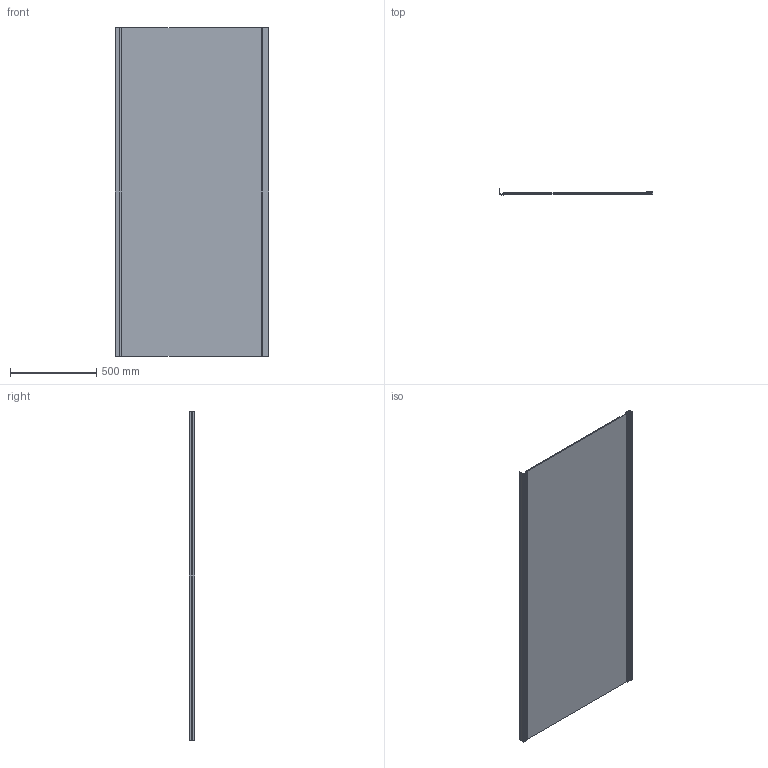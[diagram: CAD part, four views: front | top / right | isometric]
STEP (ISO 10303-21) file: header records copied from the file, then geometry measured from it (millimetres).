
FILE_DESCRIPTION(/* description */ (''),/* implementation_level */ '2;1');
FILE_NAME(/* name */ 'D:\Omnires\Export_Omnires\rys_step\5908223787645_stp.stp',/* time_stamp */ '2020-07-27T15:35:44+02:00',/* author */ (''),/* organization */ (''),/* preprocessor_version */ 'ST-DEVELOPER v18.1',/* originating_system */ 'Autodesk Inventor 2020',/* authorisation */ '');
FILE_SCHEMA (('AUTOMOTIVE_DESIGN { 1 0 10303 214 3 1 1 }'));
Length unit declared in the file: millimetre
Products named in the file (1): 5908223787645_dwg
Bounding box: 890 x 31.94 x 1900 mm (x, y, z)
Surface area: 4395546.4 mm2 (no closed solid volume)
Topology: 0 solids, 363 shells, 363 faces, 2107 edges, 2107 vertices
Faces by surface type: plane 353, bspline 8, cylinder 2
Entity records: 21042 total; most frequent: CARTESIAN_POINT 4796, DIRECTION 2795, VERTEX_POINT 2107, EDGE_CURVE 2107, ORIENTED_EDGE 2107, LINE 2067, VECTOR 2067, AXIS2_PLACEMENT_3D 364
